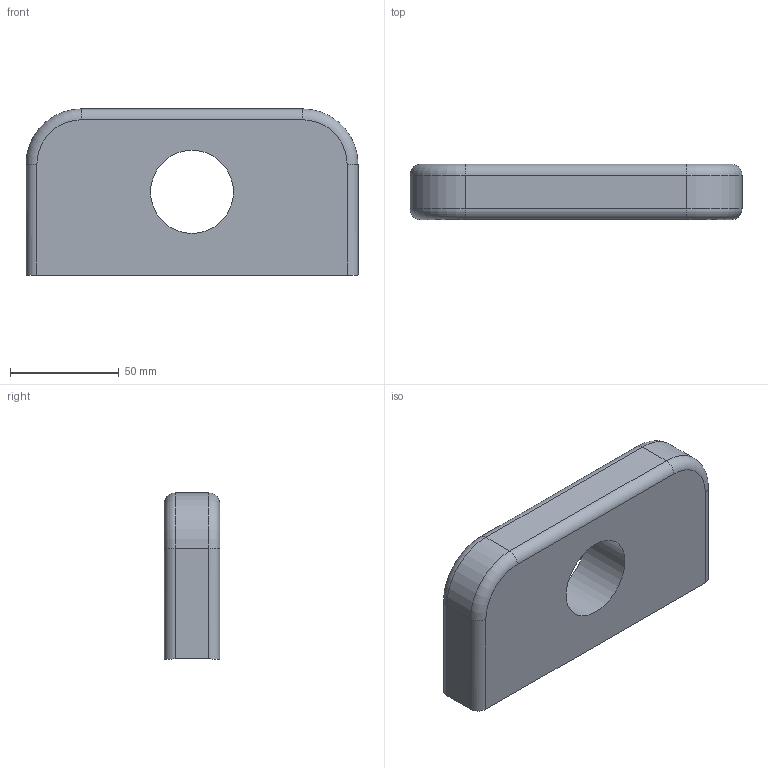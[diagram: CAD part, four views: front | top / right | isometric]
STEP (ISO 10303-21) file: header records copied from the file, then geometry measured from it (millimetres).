
FILE_DESCRIPTION( ( 'Unknown' ), '1' );
FILE_NAME( 'C:/Users/Lee/Documents/HGC Work/Solid Edge/heavy_gas_cherenkov_v5/step/crane_mount.stp', 'Unknown', ( 'Unknown' ), ( 'Unknown' ), 'PSStep 13.0', 'Unknown', ' ' );
FILE_SCHEMA( ( 'AUTOMOTIVE_DESIGN { 1 0 10303 214 1 1 1 1 }' ) );
Length unit declared in the file: millimetre
Products named in the file (1): 1
Bounding box: 152.4 x 25.4 x 76.29 mm (x, y, z)
Volume: 256093.7 mm3; surface area: 33272.8 mm2
Topology: 1 solids, 1 shells, 19 faces, 44 edges, 27 vertices
Faces by surface type: cylinder 10, plane 5, torus 4
Full cylindrical faces by diameter (mm): 38.1 x1
Entity records: 768 total; most frequent: CARTESIAN_POINT 164, DIRECTION 98, ORIENTED_EDGE 84, EDGE_CURVE 42, AXIS2_PLACEMENT_3D 40, VERTEX_POINT 26, EDGE_LOOP 22, FACE_OUTER_BOUND 20
